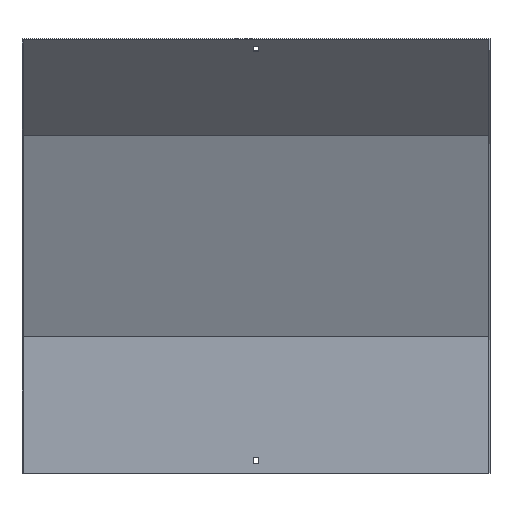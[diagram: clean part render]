
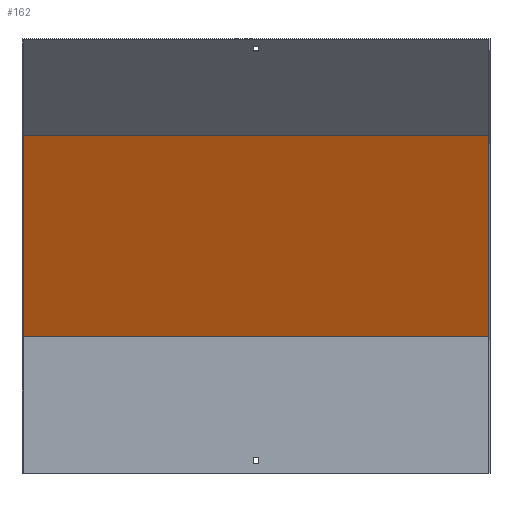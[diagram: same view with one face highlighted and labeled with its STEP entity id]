
A CAD part, front view. The second image highlights one B-rep face of the part: STEP entity #162.
In plain terms, the highlighted planar face has unit normal (0, -0.924, -0.383).
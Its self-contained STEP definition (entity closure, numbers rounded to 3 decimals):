
#9 = DIRECTION ( 'NONE',  ( 0., 0.383, -0.924 ) ) ;
#13 = EDGE_CURVE ( 'NONE', #675, #786, #490, .T. ) ;
#14 = CARTESIAN_POINT ( 'NONE',  ( 301.5, -88.789, 434.699 ) ) ;
#22 = ORIENTED_EDGE ( 'NONE', *, *, #13, .F. ) ;
#53 = CARTESIAN_POINT ( 'NONE',  ( -300., -88.789, 434.699 ) ) ;
#91 = VERTEX_POINT ( 'NONE', #239 ) ;
#108 = DIRECTION ( 'NONE',  ( 0., -0.383, 0.924 ) ) ;
#128 = EDGE_CURVE ( 'NONE', #91, #786, #148, .T. ) ;
#130 = VECTOR ( 'NONE', #108, 1000. ) ;
#131 = CARTESIAN_POINT ( 'NONE',  ( 301.5, 17.092, 179.08 ) ) ;
#148 = LINE ( 'NONE', #14, #368 ) ;
#162 = ADVANCED_FACE ( 'NONE', ( #717 ), #656, .T. ) ;
#184 = CARTESIAN_POINT ( 'NONE',  ( -300., 77.903, 32.268 ) ) ;
#239 = CARTESIAN_POINT ( 'NONE',  ( 300., -88.789, 434.699 ) ) ;
#241 = EDGE_CURVE ( 'NONE', #379, #91, #754, .T. ) ;
#260 = EDGE_LOOP ( 'NONE', ( #22, #583, #695, #726 ) ) ;
#261 = DIRECTION ( 'NONE',  ( -1., 0., 0. ) ) ;
#309 = CARTESIAN_POINT ( 'NONE',  ( 300., 18.5, 175.68 ) ) ;
#343 = DIRECTION ( 'NONE',  ( 0., -0.383, 0.924 ) ) ;
#368 = VECTOR ( 'NONE', #462, 1000. ) ;
#379 = VERTEX_POINT ( 'NONE', #309 ) ;
#396 = DIRECTION ( 'NONE',  ( 0., -0.924, -0.383 ) ) ;
#436 = CARTESIAN_POINT ( 'NONE',  ( -300., 18.5, 175.68 ) ) ;
#462 = DIRECTION ( 'NONE',  ( -1., 0., 0. ) ) ;
#490 = LINE ( 'NONE', #184, #130 ) ;
#502 = VECTOR ( 'NONE', #343, 1000. ) ;
#537 = AXIS2_PLACEMENT_3D ( 'NONE', #131, #396, #9 ) ;
#576 = LINE ( 'NONE', #851, #796 ) ;
#583 = ORIENTED_EDGE ( 'NONE', *, *, #599, .F. ) ;
#599 = EDGE_CURVE ( 'NONE', #379, #675, #576, .T. ) ;
#656 = PLANE ( 'NONE',  #537 ) ;
#675 = VERTEX_POINT ( 'NONE', #436 ) ;
#695 = ORIENTED_EDGE ( 'NONE', *, *, #241, .T. ) ;
#717 = FACE_OUTER_BOUND ( 'NONE', #260, .T. ) ;
#726 = ORIENTED_EDGE ( 'NONE', *, *, #128, .T. ) ;
#754 = LINE ( 'NONE', #811, #502 ) ;
#786 = VERTEX_POINT ( 'NONE', #53 ) ;
#796 = VECTOR ( 'NONE', #261, 1000. ) ;
#811 = CARTESIAN_POINT ( 'NONE',  ( 300., 77.903, 32.268 ) ) ;
#851 = CARTESIAN_POINT ( 'NONE',  ( 301.5, 18.5, 175.68 ) ) ;
